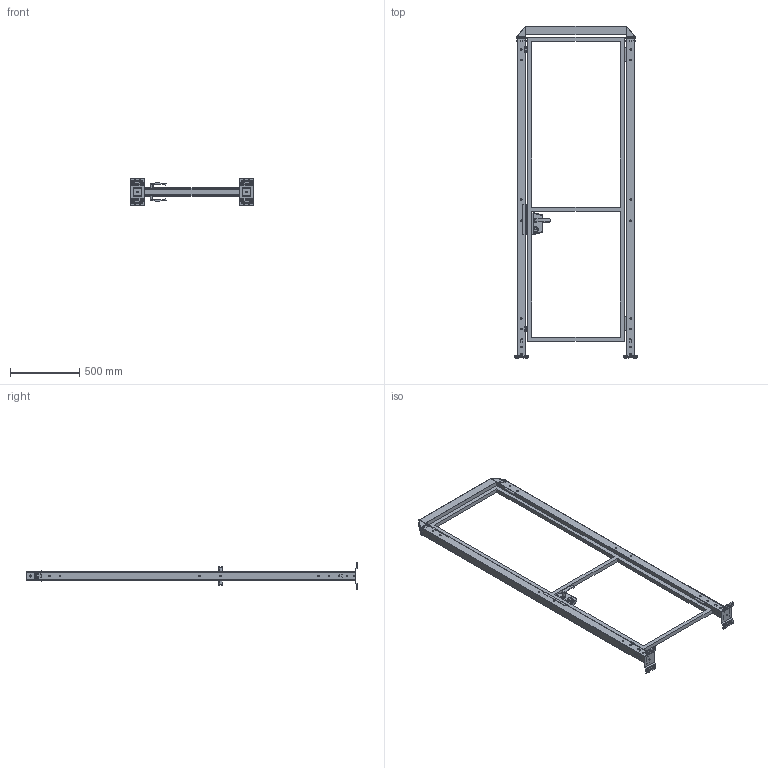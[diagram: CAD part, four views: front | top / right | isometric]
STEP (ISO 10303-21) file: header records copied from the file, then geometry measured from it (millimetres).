
FILE_DESCRIPTION(('STEP AP242'),'1');
FILE_NAME('vfda_bscgd03_07002320.stp','2025-01-31T11:30:44',('TraceParts'),('TraceParts S.A.'),'Spatial InterOp 3D',' ',' ');
FILE_SCHEMA(('AP242_MANAGED_MODEL_BASED_3D_ENGINEERING_MIM_LF {1 0 10303 442 1 1 4}'));
Length unit declared in the file: millimetre
Products named in the file (1): vfda_bscgd03_07002320_1
Bounding box: 890 x 2401 x 192 mm (x, y, z)
Volume: 8404988.3 mm3; surface area: 3569425 mm2
Topology: 13 solids, 13 shells, 1629 faces, 4331 edges, 2766 vertices
Faces by surface type: plane 807, cylinder 554, bspline 194, cone 46, torus 28
Entity records: 67608 total; most frequent: CARTESIAN_POINT 14334, ORIENTED_EDGE 8662, DIRECTION 7987, EDGE_CURVE 4331, VERTEX_POINT 2766, AXIS2_PLACEMENT_3D 2674, LINE 2639, VECTOR 2639
